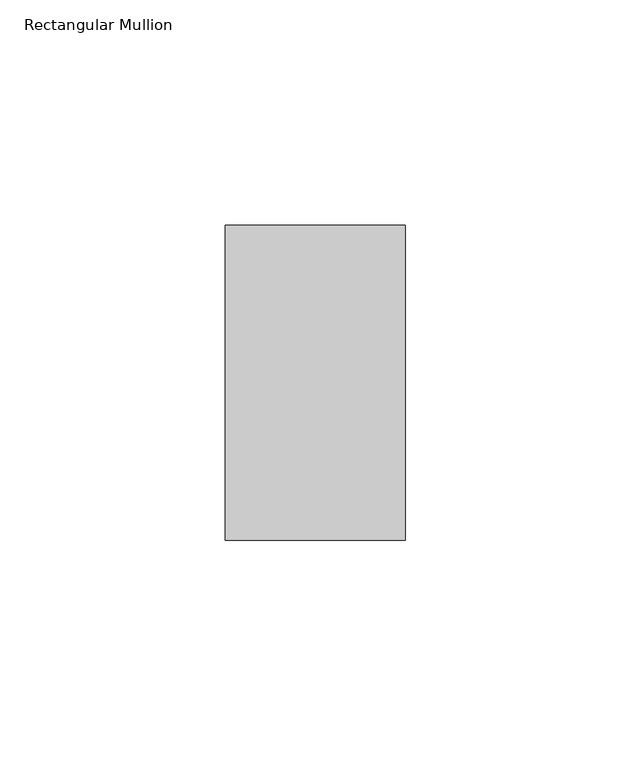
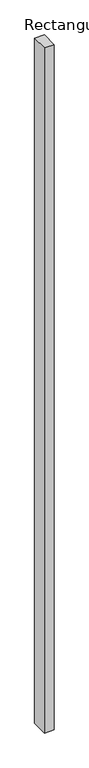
"""IFC4 building model written with IfcOpenShell, lengths in millimetres: member geometry, Rectangular Mullion : RSen_21_CWM_support profile - 40x70 - right_gen_duco projects."""

from ifc_helpers import new_model, si_unit, frame, origin, place, context, project, spatial, polyline, outline, extrude, source, transform, mapped, element, save


def rectangular_mullion_6c4a7dfa(model_context):
    return source(origin(), model_context, "Body", "SweptSolid", [
        extrude(outline(polyline([(-90.0, 1.0), (-50.0, 1.0), (-50.0, -69.0), (-90.0, -69.0), (-90.0, 1.0)])), frame((0.0, 0.0, -3000.0), z_axis=(0.0, 0.0, 1.0), x_axis=(1.0, 0.0, 0.0)), (0.0, 0.0, 1.0), 3000.0),
    ])


if __name__ == "__main__":
    model = new_model("IFC4")
    model_context = context("Model", 3, world=origin())
    ifc_project = project(units=[si_unit("LENGTHUNIT", "METRE", prefix="MILLI")], contexts=[model_context])
    site = spatial("IfcSite", under=ifc_project)
    building = spatial("IfcBuilding", under=site)
    placement = place(None, origin())
    rectangular_mullion_shape = rectangular_mullion_6c4a7dfa(model_context)
    element("IfcMember", 1, ObjectType="Rectangular Mullion : RSen_21_CWM_support profile - 40x70 - right_gen_duco projects", at=placement, inside=building, context=model_context, shape_type="MappedRepresentation", body=[
        mapped(rectangular_mullion_shape, transform((0.0, 0.0, 0.0), x_axis=(1.0, 0.0, 0.0), y_axis=(0.0, 1.0, 0.0), z_axis=(0.0, 0.0, 1.0))),
    ])
    save(model, "model.ifc")
